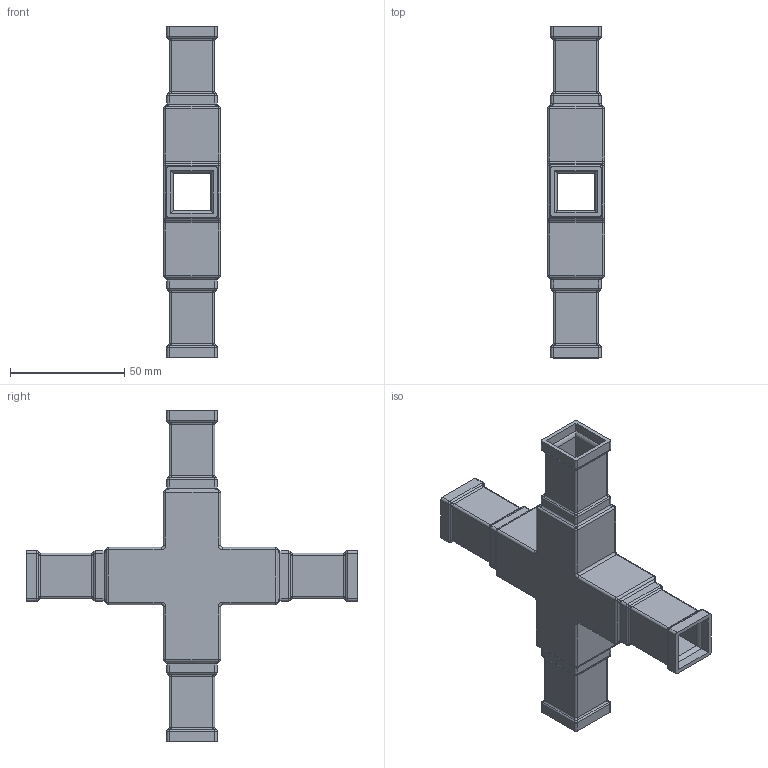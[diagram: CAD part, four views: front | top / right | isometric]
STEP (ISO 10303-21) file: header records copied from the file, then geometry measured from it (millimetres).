
FILE_DESCRIPTION (( 'STEP AP214' ), '1' );
FILE_NAME ('115.301.103.STEP', '2022-01-03T10:37:32', ( '' ), ( '' ), 'SwSTEP 2.0', 'SolidWorks 2018', '' );
FILE_SCHEMA (( 'AUTOMOTIVE_DESIGN' ));
Length unit declared in the file: millimetre
Products named in the file (2): 115.301.103
Bounding box: 25 x 145 x 145 mm (x, y, z)
Volume: 38607.2 mm3; surface area: 43239.4 mm2
Topology: 1 solids, 1 shells, 440 faces, 944 edges, 480 vertices
Faces by surface type: cylinder 216, plane 120, sphere 48, bspline 48, torus 8
Entity records: 12673 total; most frequent: CARTESIAN_POINT 3858, DIRECTION 1860, ORIENTED_EDGE 1840, EDGE_CURVE 920, AXIS2_PLACEMENT_3D 690, LINE 480, VERTEX_POINT 480, VECTOR 480
